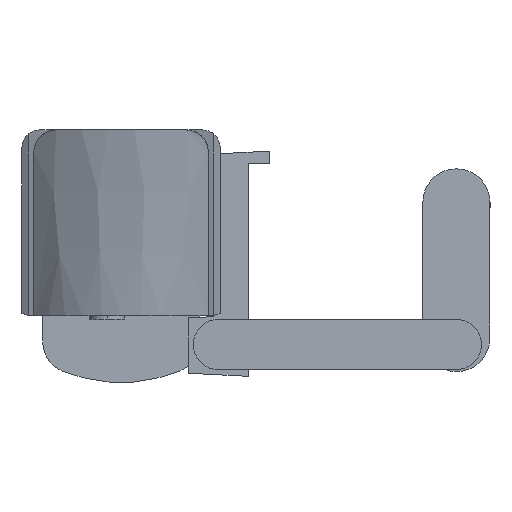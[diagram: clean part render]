
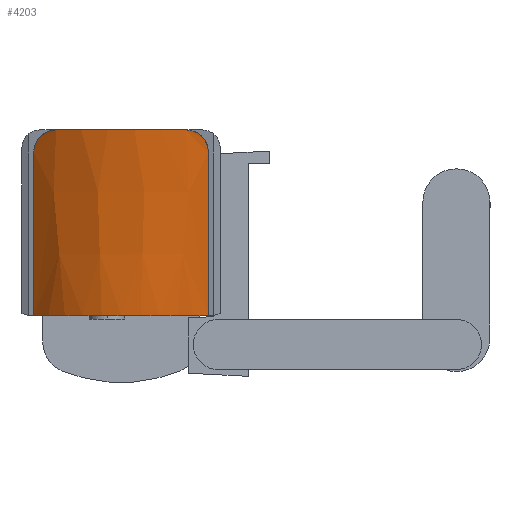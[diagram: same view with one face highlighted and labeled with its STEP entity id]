
A CAD part, left-side view. The second image highlights one B-rep face of the part: STEP entity #4203.
In plain terms, the highlighted conical face has half-angle 11 degrees and reference radius 35 mm.
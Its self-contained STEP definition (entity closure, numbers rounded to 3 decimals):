
#8 = CARTESIAN_POINT ( 'NONE',  ( -119.24, -19.5, -5. ) ) ;
#117 = DIRECTION ( 'NONE',  ( 0., 0., 1. ) ) ;
#135 = CARTESIAN_POINT ( 'NONE',  ( -113.229, -19.5, -29.385 ) ) ;
#209 = VERTEX_POINT ( 'NONE', #3419 ) ;
#211 = CARTESIAN_POINT ( 'NONE',  ( -109.932, 19.5, -41.5 ) ) ;
#240 = CARTESIAN_POINT ( 'NONE',  ( -123.209, 14.5, 0. ) ) ;
#282 = CARTESIAN_POINT ( 'NONE',  ( -119.841, -19.212, -3.294 ) ) ;
#319 = CIRCLE ( 'NONE', #4112, 26.933 ) ;
#572 = EDGE_CURVE ( 'Edge2', #5239, #3148, #319, .T. ) ;
#644 = CARTESIAN_POINT ( 'NONE',  ( -120.338, 18.774, -2.401 ) ) ;
#680 = CARTESIAN_POINT ( 'NONE',  ( -122.373, 16.108, -0.255 ) ) ;
#690 = CARTESIAN_POINT ( 'NONE',  ( -121.247, -17.756, -1.192 ) ) ;
#691 = DIRECTION ( 'NONE',  ( -1., 0., 0. ) ) ;
#702 = CARTESIAN_POINT ( 'NONE',  ( -123.209, -14.5, 0. ) ) ;
#710 = CARTESIAN_POINT ( 'NONE',  ( -121.249, 17.753, -1.19 ) ) ;
#1156 = CARTESIAN_POINT ( 'NONE',  ( -122.892, 15.165, -0.034 ) ) ;
#1204 = CARTESIAN_POINT ( 'NONE',  ( -123.055, -14.838, 0. ) ) ;
#1234 = CARTESIAN_POINT ( 'NONE',  ( -117.791, 19.5, -11.109 ) ) ;
#1295 = CARTESIAN_POINT ( 'NONE',  ( -109.932, 19.5, -41.5 ) ) ;
#1300 = CARTESIAN_POINT ( 'NONE',  ( -121.438, -17.509, -0.994 ) ) ;
#1351 = B_SPLINE_CURVE_WITH_KNOTS ( 'NONE', 3,
 ( #2399, #4928, #4319, #6392, #282, #4457, #5369, #5337, #3944, #690, #1300, #2361, #5911, #2769, #4422, #4391, #1204, #2259 ),
 .UNSPECIFIED., .F., .F.,
 ( 4, 2, 2, 2, 2, 2, 2, 2, 4 ),
 ( 0., 0.001, 0.002, 0.003, 0.004, 0.005, 0.007, 0.008, 0.009 ),
 .UNSPECIFIED. ) ;
#1599 = ORIENTED_EDGE ( 'NONE', *, *, #2120, .T. ) ;
#1708 = CARTESIAN_POINT ( 'NONE',  ( -119.697, 19.315, -3.61 ) ) ;
#1718 = CARTESIAN_POINT ( 'NONE',  ( -91.354, 0., -41.5 ) ) ;
#1804 = CARTESIAN_POINT ( 'NONE',  ( -120.874, 18.209, -1.631 ) ) ;
#1837 = CARTESIAN_POINT ( 'NONE',  ( -120.69, 18.414, -1.872 ) ) ;
#1841 = B_SPLINE_CURVE_WITH_KNOTS ( 'NONE', 3,
 ( #240, #5903, #1156, #2322, #680, #6421, #5934, #5362, #710, #1804, #1837, #4276, #644, #4382, #6455, #4412, #1708, #2794, #3867, #5428 ),
 .UNSPECIFIED., .F., .F.,
 ( 4, 2, 2, 2, 2, 2, 2, 2, 2, 4 ),
 ( 0., 0.001, 0.002, 0.003, 0.004, 0.005, 0.006, 0.007, 0.008, 0.009 ),
 .UNSPECIFIED. ) ;
#1871 = FACE_OUTER_BOUND ( 'NONE', #5359, .T. ) ;
#2120 = EDGE_CURVE ( 'NONE', #3148, #209, #2396, .T. ) ;
#2254 = CARTESIAN_POINT ( 'NONE',  ( -111.635, 19.5, -35.455 ) ) ;
#2259 = CARTESIAN_POINT ( 'NONE',  ( -123.209, -14.5, 0. ) ) ;
#2322 = CARTESIAN_POINT ( 'NONE',  ( -122.552, 15.799, -0.161 ) ) ;
#2335 = VERTEX_POINT ( 'NONE', #5015 ) ;
#2361 = CARTESIAN_POINT ( 'NONE',  ( -121.817, -16.979, -0.647 ) ) ;
#2396 = B_SPLINE_CURVE_WITH_KNOTS ( 'NONE', 3,
 ( #4140, #5769, #135, #3232, #4274, #8 ),
 .UNSPECIFIED., .F., .F.,
 ( 4, 2, 4 ),
 ( 0.333, 0.352, 0.371 ),
 .UNSPECIFIED. ) ;
#2399 = CARTESIAN_POINT ( 'NONE',  ( -119.24, -19.5, -5. ) ) ;
#2544 = AXIS2_PLACEMENT_3D ( 'NONE', #2993, #5048, #5493 ) ;
#2653 = B_SPLINE_CURVE_WITH_KNOTS ( 'NONE', 3,
 ( #211, #2254, #4317, #3238, #1234, #6426 ),
 .UNSPECIFIED., .F., .F.,
 ( 4, 2, 4 ),
 ( 0., 0.019, 0.038 ),
 .UNSPECIFIED. ) ;
#2769 = CARTESIAN_POINT ( 'NONE',  ( -122.368, -16.116, -0.258 ) ) ;
#2794 = CARTESIAN_POINT ( 'NONE',  ( -119.438, 19.46, -4.283 ) ) ;
#2993 = CARTESIAN_POINT ( 'NONE',  ( -91.354, 0., 0. ) ) ;
#3103 = ORIENTED_EDGE ( 'NONE', *, *, #6286, .F. ) ;
#3148 = VERTEX_POINT ( 'NONE', #4124 ) ;
#3232 = CARTESIAN_POINT ( 'NONE',  ( -116.308, -19.5, -17.212 ) ) ;
#3237 = ORIENTED_EDGE ( 'NONE', *, *, #5962, .F. ) ;
#3238 = CARTESIAN_POINT ( 'NONE',  ( -116.308, 19.5, -17.21 ) ) ;
#3375 = AXIS2_PLACEMENT_3D ( 'NONE', #5893, #6444, #3422 ) ;
#3419 = CARTESIAN_POINT ( 'NONE',  ( -119.24, -19.5, -5. ) ) ;
#3422 = DIRECTION ( 'NONE',  ( 1., 0., 0. ) ) ;
#3542 = ORIENTED_EDGE ( 'NONE', *, *, #4098, .T. ) ;
#3845 = CARTESIAN_POINT ( 'NONE',  ( -123.209, 14.5, 0. ) ) ;
#3867 = CARTESIAN_POINT ( 'NONE',  ( -119.326, 19.5, -4.638 ) ) ;
#3944 = CARTESIAN_POINT ( 'NONE',  ( -120.874, -18.208, -1.632 ) ) ;
#4098 = EDGE_CURVE ( 'NONE', #4843, #2335, #1841, .T. ) ;
#4112 = AXIS2_PLACEMENT_3D ( 'NONE', #1718, #117, #691 ) ;
#4124 = CARTESIAN_POINT ( 'NONE',  ( -109.932, -19.5, -41.5 ) ) ;
#4140 = CARTESIAN_POINT ( 'NONE',  ( -109.932, -19.5, -41.5 ) ) ;
#4203 = ADVANCED_FACE ( 'Face10', ( #1871 ), #6219, .T. ) ;
#4274 = CARTESIAN_POINT ( 'NONE',  ( -117.791, -19.5, -11.111 ) ) ;
#4276 = CARTESIAN_POINT ( 'NONE',  ( -120.425, 18.688, -2.265 ) ) ;
#4317 = CARTESIAN_POINT ( 'NONE',  ( -113.229, 19.5, -29.383 ) ) ;
#4319 = CARTESIAN_POINT ( 'NONE',  ( -119.435, -19.461, -4.291 ) ) ;
#4382 = CARTESIAN_POINT ( 'NONE',  ( -120.168, 18.934, -2.684 ) ) ;
#4391 = CARTESIAN_POINT ( 'NONE',  ( -122.892, -15.167, -0.034 ) ) ;
#4412 = CARTESIAN_POINT ( 'NONE',  ( -119.843, 19.21, -3.29 ) ) ;
#4422 = CARTESIAN_POINT ( 'NONE',  ( -122.546, -15.809, -0.163 ) ) ;
#4457 = CARTESIAN_POINT ( 'NONE',  ( -120.16, -18.946, -2.688 ) ) ;
#4777 = CIRCLE ( 'NONE', #3375, 35. ) ;
#4843 = VERTEX_POINT ( 'NONE', #3845 ) ;
#4918 = EDGE_CURVE ( 'NONE', #209, #6264, #1351, .T. ) ;
#4928 = CARTESIAN_POINT ( 'NONE',  ( -119.326, -19.5, -4.638 ) ) ;
#5015 = CARTESIAN_POINT ( 'NONE',  ( -119.24, 19.5, -5. ) ) ;
#5048 = DIRECTION ( 'NONE',  ( 0., 0., 1. ) ) ;
#5239 = VERTEX_POINT ( 'NONE', #1295 ) ;
#5337 = CARTESIAN_POINT ( 'NONE',  ( -120.689, -18.416, -1.874 ) ) ;
#5359 = EDGE_LOOP ( 'NONE', ( #1599, #5669, #3103, #3542, #3237, #6112 ) ) ;
#5362 = CARTESIAN_POINT ( 'NONE',  ( -121.441, 17.505, -0.991 ) ) ;
#5369 = CARTESIAN_POINT ( 'NONE',  ( -120.33, -18.786, -2.405 ) ) ;
#5428 = CARTESIAN_POINT ( 'NONE',  ( -119.24, 19.5, -5. ) ) ;
#5493 = DIRECTION ( 'NONE',  ( 1., 0., 0. ) ) ;
#5669 = ORIENTED_EDGE ( 'NONE', *, *, #4918, .T. ) ;
#5769 = CARTESIAN_POINT ( 'NONE',  ( -111.635, -19.5, -35.457 ) ) ;
#5893 = CARTESIAN_POINT ( 'NONE',  ( -91.354, 0., 0. ) ) ;
#5903 = CARTESIAN_POINT ( 'NONE',  ( -123.055, 14.838, 0. ) ) ;
#5911 = CARTESIAN_POINT ( 'NONE',  ( -122.003, -16.701, -0.499 ) ) ;
#5934 = CARTESIAN_POINT ( 'NONE',  ( -121.817, 16.979, -0.647 ) ) ;
#5962 = EDGE_CURVE ( 'NONE', #5239, #2335, #2653, .T. ) ;
#6112 = ORIENTED_EDGE ( 'NONE', *, *, #572, .T. ) ;
#6219 = CONICAL_SURFACE ( 'NONE', #2544, 35., 0.192 ) ;
#6264 = VERTEX_POINT ( 'NONE', #702 ) ;
#6286 = EDGE_CURVE ( 'Edge16', #4843, #6264, #4777, .T. ) ;
#6392 = CARTESIAN_POINT ( 'NONE',  ( -119.692, -19.318, -3.62 ) ) ;
#6421 = CARTESIAN_POINT ( 'NONE',  ( -122.004, 16.7, -0.499 ) ) ;
#6426 = CARTESIAN_POINT ( 'NONE',  ( -119.24, 19.5, -5. ) ) ;
#6444 = DIRECTION ( 'NONE',  ( 0., 0., 1. ) ) ;
#6455 = CARTESIAN_POINT ( 'NONE',  ( -120.084, 19.009, -2.833 ) ) ;
